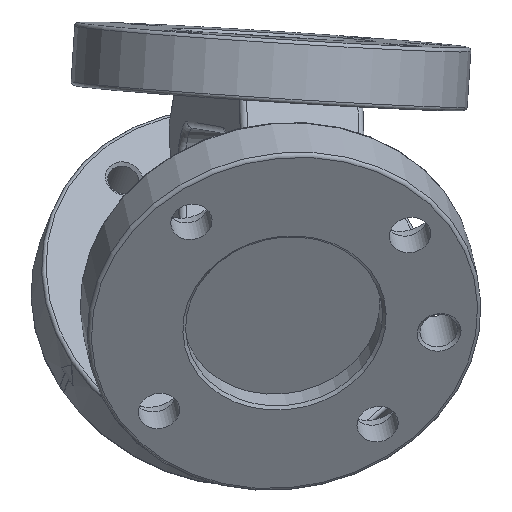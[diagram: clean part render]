
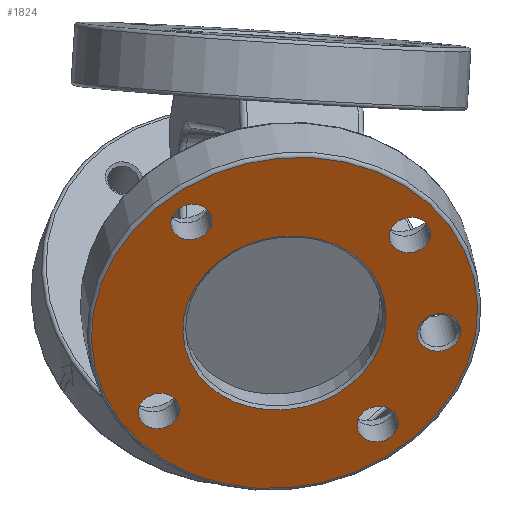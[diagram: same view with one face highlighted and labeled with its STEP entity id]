
A CAD part, isometric view. The second image highlights one B-rep face of the part: STEP entity #1824.
In plain terms, the highlighted planar face has unit normal (-0.612, -0.789, 0.057) as drawn and (0, 0, 1) by its records, which use the part's own axes.
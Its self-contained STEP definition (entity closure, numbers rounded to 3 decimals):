
#103=FACE_BOUND('',#505,.T.);
#104=FACE_BOUND('',#506,.T.);
#105=FACE_BOUND('',#507,.T.);
#106=FACE_BOUND('',#508,.T.);
#107=FACE_BOUND('',#509,.T.);
#108=FACE_BOUND('',#510,.T.);
#195=CIRCLE('',#2081,3.3);
#201=CIRCLE('',#2090,3.3);
#207=CIRCLE('',#2099,3.3);
#213=CIRCLE('',#2108,3.3);
#226=CIRCLE('',#2137,16.26);
#227=CIRCLE('',#2139,30.9);
#228=CIRCLE('',#2140,30.9);
#229=CIRCLE('',#2141,3.51);
#274=PLANE('',#2138);
#374=FACE_OUTER_BOUND('',#504,.T.);
#504=EDGE_LOOP('',(#1648,#1649));
#505=EDGE_LOOP('',(#1650));
#506=EDGE_LOOP('',(#1651));
#507=EDGE_LOOP('',(#1652));
#508=EDGE_LOOP('',(#1653));
#509=EDGE_LOOP('',(#1654));
#510=EDGE_LOOP('',(#1655));
#875=VERTEX_POINT('',#3180);
#881=VERTEX_POINT('',#3197);
#887=VERTEX_POINT('',#3214);
#893=VERTEX_POINT('',#3231);
#914=VERTEX_POINT('',#3295);
#915=VERTEX_POINT('',#3299);
#916=VERTEX_POINT('',#3300);
#917=VERTEX_POINT('',#3303);
#1108=EDGE_CURVE('',#875,#875,#195,.T.);
#1116=EDGE_CURVE('',#881,#881,#201,.T.);
#1124=EDGE_CURVE('',#887,#887,#207,.T.);
#1132=EDGE_CURVE('',#893,#893,#213,.T.);
#1164=EDGE_CURVE('',#914,#914,#226,.T.);
#1165=EDGE_CURVE('',#915,#916,#227,.T.);
#1166=EDGE_CURVE('',#916,#915,#228,.T.);
#1167=EDGE_CURVE('',#917,#917,#229,.T.);
#1648=ORIENTED_EDGE('',*,*,#1165,.F.);
#1649=ORIENTED_EDGE('',*,*,#1166,.F.);
#1650=ORIENTED_EDGE('',*,*,#1108,.T.);
#1651=ORIENTED_EDGE('',*,*,#1116,.T.);
#1652=ORIENTED_EDGE('',*,*,#1124,.T.);
#1653=ORIENTED_EDGE('',*,*,#1132,.T.);
#1654=ORIENTED_EDGE('',*,*,#1167,.F.);
#1655=ORIENTED_EDGE('',*,*,#1164,.F.);
#1824=ADVANCED_FACE('',(#374,#103,#104,#105,#106,#107,#108),#274,.T.);
#2081=AXIS2_PLACEMENT_3D('',#3181,#2611,#2612);
#2090=AXIS2_PLACEMENT_3D('',#3198,#2631,#2632);
#2099=AXIS2_PLACEMENT_3D('',#3215,#2651,#2652);
#2108=AXIS2_PLACEMENT_3D('',#3232,#2671,#2672);
#2137=AXIS2_PLACEMENT_3D('',#3297,#2744,#2745);
#2138=AXIS2_PLACEMENT_3D('',#3298,#2746,#2747);
#2139=AXIS2_PLACEMENT_3D('',#3301,#2748,#2749);
#2140=AXIS2_PLACEMENT_3D('',#3302,#2750,#2751);
#2141=AXIS2_PLACEMENT_3D('',#3304,#2752,#2753);
#2611=DIRECTION('center_axis',(0.,0.,-1.));
#2612=DIRECTION('ref_axis',(-1.,0.,0.));
#2631=DIRECTION('center_axis',(0.,0.,-1.));
#2632=DIRECTION('ref_axis',(-1.,0.,0.));
#2651=DIRECTION('center_axis',(0.,0.,-1.));
#2652=DIRECTION('ref_axis',(-1.,0.,0.));
#2671=DIRECTION('center_axis',(0.,0.,-1.));
#2672=DIRECTION('ref_axis',(-1.,0.,0.));
#2744=DIRECTION('center_axis',(0.,0.,1.));
#2745=DIRECTION('ref_axis',(-1.,0.,0.));
#2746=DIRECTION('center_axis',(0.,0.,1.));
#2747=DIRECTION('ref_axis',(1.,0.,0.));
#2748=DIRECTION('center_axis',(0.,0.,-1.));
#2749=DIRECTION('ref_axis',(-1.,0.,0.));
#2750=DIRECTION('center_axis',(0.,0.,-1.));
#2751=DIRECTION('ref_axis',(-1.,0.,0.));
#2752=DIRECTION('center_axis',(0.,0.,1.));
#2753=DIRECTION('ref_axis',(-1.,0.,0.));
#3180=CARTESIAN_POINT('',(-14.378,-17.678,10.));
#3181=CARTESIAN_POINT('Origin',(-17.678,-17.678,10.));
#3197=CARTESIAN_POINT('',(20.978,17.678,10.));
#3198=CARTESIAN_POINT('Origin',(17.678,17.678,10.));
#3214=CARTESIAN_POINT('',(-14.378,17.678,10.));
#3215=CARTESIAN_POINT('Origin',(-17.678,17.678,10.));
#3231=CARTESIAN_POINT('',(20.978,-17.678,10.));
#3232=CARTESIAN_POINT('Origin',(17.678,-17.678,10.));
#3295=CARTESIAN_POINT('',(16.26,0.,10.));
#3297=CARTESIAN_POINT('Origin',(0.,0.,10.));
#3298=CARTESIAN_POINT('Origin',(0.,0.,
10.));
#3299=CARTESIAN_POINT('',(30.9,0.,10.));
#3300=CARTESIAN_POINT('',(-30.9,0.,10.));
#3301=CARTESIAN_POINT('Origin',(0.,0.,10.));
#3302=CARTESIAN_POINT('Origin',(0.,0.,10.));
#3303=CARTESIAN_POINT('',(28.51,0.,10.));
#3304=CARTESIAN_POINT('Origin',(25.,0.,10.));
